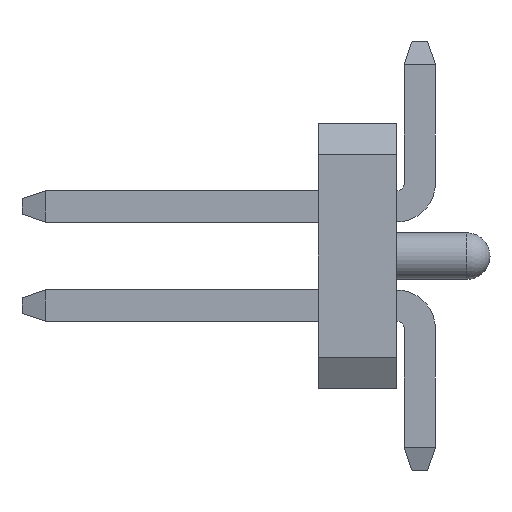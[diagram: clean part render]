
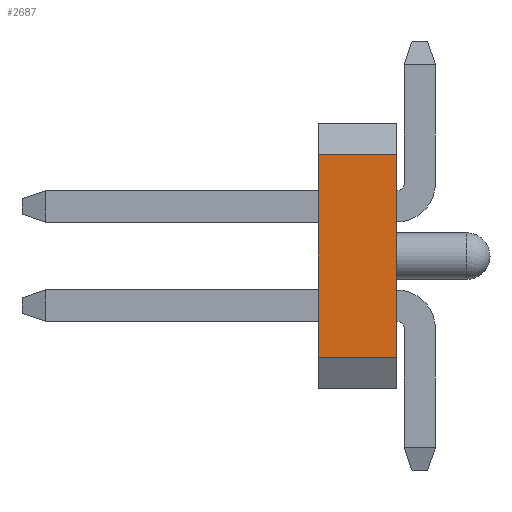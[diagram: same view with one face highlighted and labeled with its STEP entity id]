
A CAD part, left-side view. The second image highlights one B-rep face of the part: STEP entity #2687.
In plain terms, the highlighted planar face has unit normal (-1, 0, 0).
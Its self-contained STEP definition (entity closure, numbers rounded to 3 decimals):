
#2345=FACE_OUTER_BOUND('',#4919,.T.);
#2687=ADVANCED_FACE('',(#2345),#2997,.F.);
#2997=PLANE('',#8338);
#3049=LINE('',#9988,#3805);
#3168=LINE('',#10229,#3924);
#3744=LINE('',#11526,#4500);
#3748=LINE('',#11532,#4504);
#3805=VECTOR('',#8394,1.);
#3924=VECTOR('',#8519,1.);
#4500=VECTOR('',#9843,1.);
#4504=VECTOR('',#9851,1.);
#4919=EDGE_LOOP('',(#6491,#6492,#6493,#6494));
#6491=ORIENTED_EDGE('',*,*,#7232,.T.);
#6492=ORIENTED_EDGE('',*,*,#7870,.F.);
#6493=ORIENTED_EDGE('',*,*,#7112,.F.);
#6494=ORIENTED_EDGE('',*,*,#7866,.T.);
#6604=VERTEX_POINT('',#9987);
#6605=VERTEX_POINT('',#9989);
#6723=VERTEX_POINT('',#10228);
#6724=VERTEX_POINT('',#10230);
#7112=EDGE_CURVE('',#6604,#6605,#3049,.T.);
#7232=EDGE_CURVE('',#6724,#6723,#3168,.T.);
#7866=EDGE_CURVE('',#6604,#6724,#3744,.T.);
#7870=EDGE_CURVE('',#6605,#6723,#3748,.T.);
#8338=AXIS2_PLACEMENT_3D('',#11535,#9856,#9857);
#8394=DIRECTION('',(0.,0.,-1.));
#8519=DIRECTION('',(0.,0.,-1.));
#9843=DIRECTION('',(0.,1.,0.));
#9851=DIRECTION('',(0.,1.,0.));
#9856=DIRECTION('',(1.,0.,0.));
#9857=DIRECTION('',(0.,-1.,0.));
#9987=CARTESIAN_POINT('',(-10.441,-0.302,1.3));
#9988=CARTESIAN_POINT('',(-10.441,-0.302,1.7));
#9989=CARTESIAN_POINT('',(-10.441,-0.302,-1.3));
#10228=CARTESIAN_POINT('',(-10.441,0.698,-1.3));
#10229=CARTESIAN_POINT('',(-10.441,0.698,1.7));
#10230=CARTESIAN_POINT('',(-10.441,0.698,1.3));
#11526=CARTESIAN_POINT('',(-10.441,-0.302,1.3));
#11532=CARTESIAN_POINT('',(-10.441,-0.302,-1.3));
#11535=CARTESIAN_POINT('',(-10.441,0.698,1.7));
